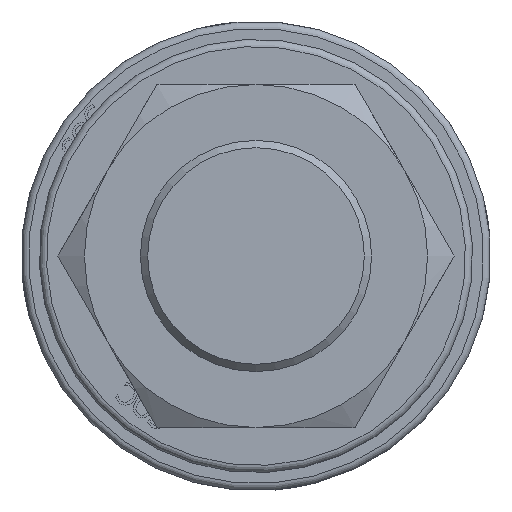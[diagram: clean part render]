
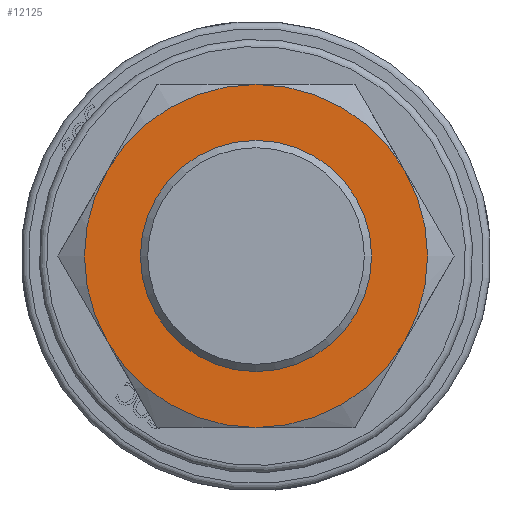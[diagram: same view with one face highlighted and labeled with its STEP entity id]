
A CAD part, front view. The second image highlights one B-rep face of the part: STEP entity #12125.
In plain terms, the highlighted planar face has unit normal (0, -1, 0) as drawn and (-1, 0, 0) by its records, which use the part's own axes.
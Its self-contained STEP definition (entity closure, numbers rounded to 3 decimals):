
#112=CIRCLE('',#12797,32.);
#114=CIRCLE('',#12801,47.5);
#115=CIRCLE('',#12802,47.5);
#116=CIRCLE('',#12803,47.5);
#117=CIRCLE('',#12804,47.5);
#118=CIRCLE('',#12805,47.5);
#119=CIRCLE('',#12806,47.5);
#182=FACE_BOUND('',#1652,.T.);
#427=PLANE('',#12800);
#924=FACE_OUTER_BOUND('',#1651,.T.);
#1651=EDGE_LOOP('',(#9634,#9635,#9636,#9637,#9638,#9639));
#1652=EDGE_LOOP('',(#9640));
#5520=VERTEX_POINT('',#18418);
#5522=VERTEX_POINT('',#18424);
#5523=VERTEX_POINT('',#18425);
#5524=VERTEX_POINT('',#18427);
#5525=VERTEX_POINT('',#18429);
#5526=VERTEX_POINT('',#18431);
#5527=VERTEX_POINT('',#18433);
#6999=EDGE_CURVE('',#5520,#5520,#112,.T.);
#7001=EDGE_CURVE('',#5522,#5523,#114,.T.);
#7002=EDGE_CURVE('',#5523,#5524,#115,.T.);
#7003=EDGE_CURVE('',#5524,#5525,#116,.T.);
#7004=EDGE_CURVE('',#5525,#5526,#117,.T.);
#7005=EDGE_CURVE('',#5526,#5527,#118,.T.);
#7006=EDGE_CURVE('',#5527,#5522,#119,.T.);
#9634=ORIENTED_EDGE('',*,*,#7001,.T.);
#9635=ORIENTED_EDGE('',*,*,#7002,.T.);
#9636=ORIENTED_EDGE('',*,*,#7003,.T.);
#9637=ORIENTED_EDGE('',*,*,#7004,.T.);
#9638=ORIENTED_EDGE('',*,*,#7005,.T.);
#9639=ORIENTED_EDGE('',*,*,#7006,.T.);
#9640=ORIENTED_EDGE('',*,*,#6999,.F.);
#12125=ADVANCED_FACE('',(#924,#182),#427,.F.);
#12797=AXIS2_PLACEMENT_3D('',#18419,#14062,#14063);
#12800=AXIS2_PLACEMENT_3D('',#18423,#14068,#14069);
#12801=AXIS2_PLACEMENT_3D('',#18426,#14070,#14071);
#12802=AXIS2_PLACEMENT_3D('',#18428,#14072,#14073);
#12803=AXIS2_PLACEMENT_3D('',#18430,#14074,#14075);
#12804=AXIS2_PLACEMENT_3D('',#18432,#14076,#14077);
#12805=AXIS2_PLACEMENT_3D('',#18434,#14078,#14079);
#12806=AXIS2_PLACEMENT_3D('',#18435,#14080,#14081);
#14062=DIRECTION('center_axis',(-1.,0.,0.));
#14063=DIRECTION('ref_axis',(0.,0.,-1.));
#14068=DIRECTION('center_axis',(1.,0.,0.));
#14069=DIRECTION('ref_axis',(0.,0.,-1.));
#14070=DIRECTION('center_axis',(-1.,0.,0.));
#14071=DIRECTION('ref_axis',(0.,1.,0.));
#14072=DIRECTION('center_axis',(-1.,0.,0.));
#14073=DIRECTION('ref_axis',(0.,1.,0.));
#14074=DIRECTION('center_axis',(-1.,0.,0.));
#14075=DIRECTION('ref_axis',(0.,1.,0.));
#14076=DIRECTION('center_axis',(-1.,0.,0.));
#14077=DIRECTION('ref_axis',(0.,1.,0.));
#14078=DIRECTION('center_axis',(-1.,0.,0.));
#14079=DIRECTION('ref_axis',(0.,1.,0.));
#14080=DIRECTION('center_axis',(-1.,0.,0.));
#14081=DIRECTION('ref_axis',(0.,1.,0.));
#18418=CARTESIAN_POINT('',(0.,0.,32.));
#18419=CARTESIAN_POINT('Origin',(0.,0.,0.));
#18423=CARTESIAN_POINT('Origin',(0.,0.,0.));
#18424=CARTESIAN_POINT('',(0.,-41.136,-23.75));
#18425=CARTESIAN_POINT('',(0.,-41.136,23.75));
#18426=CARTESIAN_POINT('Origin',(0.,0.,0.));
#18427=CARTESIAN_POINT('',(0.,0.,47.5));
#18428=CARTESIAN_POINT('Origin',(0.,0.,0.));
#18429=CARTESIAN_POINT('',(0.,41.136,23.75));
#18430=CARTESIAN_POINT('Origin',(0.,0.,0.));
#18431=CARTESIAN_POINT('',(0.,41.136,-23.75));
#18432=CARTESIAN_POINT('Origin',(0.,0.,0.));
#18433=CARTESIAN_POINT('',(0.,0.,-47.5));
#18434=CARTESIAN_POINT('Origin',(0.,0.,0.));
#18435=CARTESIAN_POINT('Origin',(0.,0.,0.));
